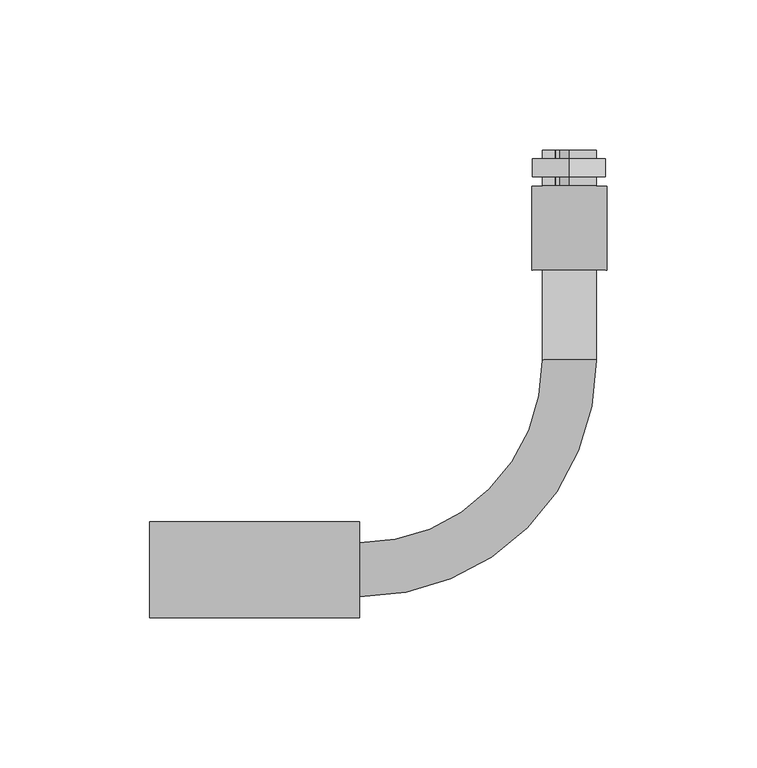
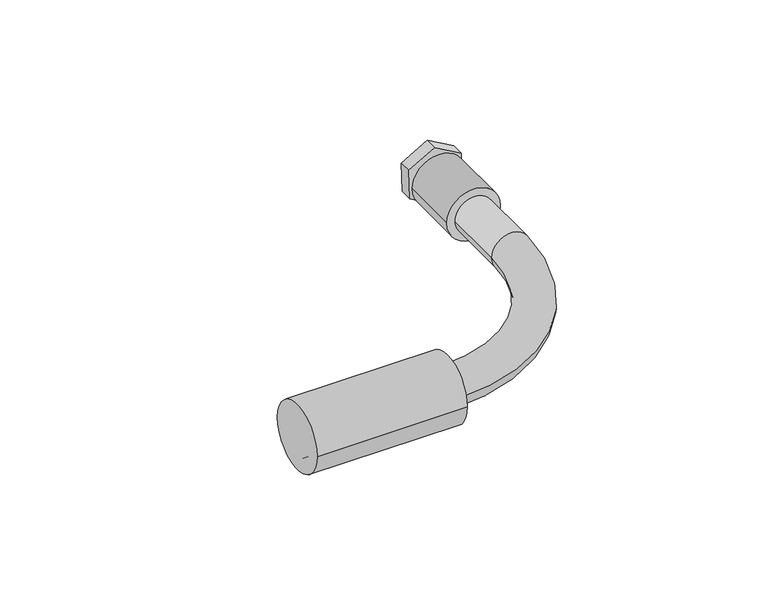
"""IFC4 building model written with IfcOpenShell, lengths in millimetres: cable carrier fitting geometry, Муфта_гибкая_труба-коробка_IP44 : Муфта гибкая труба-коробка D16мм."""

from ifc_helpers import new_model, si_unit, point, frame, frame_2d, origin, origin_2d, place, context, project, spatial, polyline, circle_curve, ellipse_curve, trimmed, segment, composite_curve, outline, extrude, source, transform, mapped, element, save
from ifc_brep_helpers import plane_surface, cylinder_surface, revolved_surface, advanced_brep


def cable_carrier_fitting_8629ba99(model_context):
    return source(origin(), model_context, "Body", "SolidModel", [
        extrude(outline(polyline([(-6.8809633, -12.0), (-14.0920659, 0.0), (-6.8809633, 12.0), (7.1190367, 12.0), (14.0110654, -0.1860552), (7.1141636, -12.369353), (-6.8809633, -12.0)])), frame((0.0, 131.1018563, 0.0), z_axis=(0.0, 1.0, 0.0), x_axis=(0.0, 0.0, 1.0)), (0.0, 0.0, 1.0), 6.0),
        extrude(outline(composite_curve([segment(trimmed(circle_curve(frame_2d((0.0032191, -0.0900025)), 8.5), [point((0.0032191, 8.4099975))], [point((0.0032191, -8.5900025))], False, "CARTESIAN"), True, "CONTINUOUS"), segment(trimmed(circle_curve(frame_2d((0.0032191, -0.0900025)), 8.5), [point((0.0032191, -8.5900025))], [point((0.0032191, 8.4099975))], False, "CARTESIAN"), True, "CONTINUOUS")], self_intersect=False)), frame((0.0, 128.0, 0.0), z_axis=(0.0, 1.0, 0.0), x_axis=(0.0, 0.0, 1.0)), (0.0, 0.0, 1.0), 12.0),
        advanced_brep(
        [(12.4094864, 128.0, 0.0), (-12.5905136, 128.0, 0.0), (-8.0905136, 128.0, 0.0057257), (7.9094864, 128.0, 0.0057257), (12.4094864, 100.0, 0.0), (-12.5905136, 100.0, 0.0), (7.9094864, 103.5421201, 0.0057257), (-8.0905136, 103.5421201, 0.0057257)],
        [
            (0, 1, circle_curve(frame((-0.0905136, 128.0, 0.0), z_axis=(0.0, 1.0, 0.0), x_axis=(-1.0, 0.0, 0.0)), 12.5)),
            (1, 0, circle_curve(frame((-0.0905136, 128.0, 0.0), z_axis=(0.0, 1.0, 0.0), x_axis=(-1.0, 0.0, 0.0)), 12.5)),
            (2, 3, circle_curve(frame((-0.0905136, 128.0, 0.0057257), z_axis=(0.0, -1.0, 0.0), x_axis=(-1.0, 0.0, 0.0)), 8.0)),
            (3, 2, circle_curve(frame((-0.0905136, 128.0, 0.0057257), z_axis=(0.0, -1.0, 0.0), x_axis=(-1.0, 0.0, 0.0)), 8.0)),
            (4, 5, circle_curve(frame((-0.0905136, 100.0, 0.0), z_axis=(0.0, -1.0, 0.0), x_axis=(-1.0, 0.0, 0.0)), 12.5)),
            (5, 4, circle_curve(frame((-0.0905136, 100.0, 0.0), z_axis=(0.0, -1.0, 0.0), x_axis=(-1.0, 0.0, 0.0)), 12.5)),
            (0, 4),
            (5, 1),
            (6, 7, circle_curve(frame((-0.0905136, 103.5421201, 0.0057257), z_axis=(0.0, 1.0, 0.0), x_axis=(-1.0, 0.0, 0.0)), 8.0)),
            (7, 6, circle_curve(frame((-0.0905136, 103.5421201, 0.0057257), z_axis=(0.0, 1.0, 0.0), x_axis=(-1.0, 0.0, 0.0)), 8.0)),
            (6, 3),
            (2, 7),
        ],
        [
            plane_surface(frame((-12.5905136, 128.0, 0.0), z_axis=(0.0, 1.0, 0.0), x_axis=(0.0, 0.0, 1.0))),
            plane_surface(frame((-12.5905136, 100.0, 0.0), z_axis=(0.0, -1.0, 0.0), x_axis=(0.0, 0.0, -1.0))),
            cylinder_surface(frame((-0.0905136, 100.0, 0.0), z_axis=(0.0, 1.0, 0.0), x_axis=(-1.0, 0.0, 0.0)), 12.5),
            plane_surface(frame((-8.0905136, 103.5421201, 0.0057257), z_axis=(0.0, 1.0, 0.0), x_axis=(0.0, 0.0, -1.0))),
            revolved_surface(polyline([(-8.0905136, 128.0, 0.0057257), (-8.0905136, 103.5421201, 0.0057257)]), (-0.0905136, 103.5421201, 0.0057257), (0.0, 1.0, 0.0)),
        ],
        [
            (0, [[1, 2], [3, 4]]),
            (1, [[5, 6]]),
            (2, [[-1, 7, -6, 8]]),
            (2, [[-2, -8, -5, -7]]),
            (3, [[9, 10]]),
            (4, [[-9, 11, -3, 12]]),
            (4, [[-10, -12, -4, -11]]),
        ],
    ),
        extrude(outline(composite_curve([segment(trimmed(circle_curve(origin_2d(), 16.0), [point((-16.0, 0.0))], [point((16.0, 0.0))], False, "CARTESIAN"), True, "CONTINUOUS"), segment(trimmed(circle_curve(origin_2d(), 16.0), [point((16.0, 0.0))], [point((-16.0, 0.0))], False, "CARTESIAN"), True, "CONTINUOUS")], self_intersect=False)), frame((-140.0, 0.0, 0.0), z_axis=(1.0, 0.0, 0.0), x_axis=(0.0, 1.0, 0.0)), (0.0, 0.0, 1.0), 70.0),
        advanced_brep(
        [(-140.0, -9.0, 0.0), (-140.0, 9.0, 0.0), (-70.0, -9.0, 0.0), (-70.0, 9.0, 0.0), (-9.0, 70.0, 0.0), (9.0, 70.0, 0.0), (9.0, 140.0, 0.0), (-9.0, 140.0, 0.0)],
        [
            (0, 1, circle_curve(frame((-140.0, 0.0, 0.0), z_axis=(-1.0, 0.0, 0.0), x_axis=(0.0, 1.0, 0.0)), 9.0)),
            (1, 0, circle_curve(frame((-140.0, 0.0, 0.0), z_axis=(-1.0, 0.0, 0.0), x_axis=(0.0, 1.0, 0.0)), 9.0)),
            (0, 2),
            (2, 3, circle_curve(frame((-70.0, 0.0, 0.0), z_axis=(-1.0, 0.0, 0.0), x_axis=(0.0, 1.0, 0.0)), 9.0)),
            (3, 1),
            (3, 2, circle_curve(frame((-70.0, 0.0, 0.0), z_axis=(-1.0, 0.0, 0.0), x_axis=(0.0, 1.0, 0.0)), 9.0)),
            (4, 3, circle_curve(frame((-70.0, 70.0, 0.0), z_axis=(0.0, 0.0, -1.0), x_axis=(0.0, -1.0, 0.0)), 61.0)),
            (2, 5, circle_curve(frame((-70.0, 70.0, 0.0), z_axis=(0.0, 0.0, 1.0), x_axis=(0.0, -1.0, 0.0)), 79.0)),
            (5, 4, circle_curve(frame((0.0, 70.0, 0.0), z_axis=(0.0, -1.0, 0.0), x_axis=(-1.0, 0.0, 0.0)), 9.0)),
            (4, 5, circle_curve(frame((0.0, 70.0, 0.0), z_axis=(0.0, -1.0, 0.0), x_axis=(-1.0, 0.0, 0.0)), 9.0)),
            (6, 7, circle_curve(frame((0.0, 140.0, 0.0), z_axis=(0.0, 1.0, 0.0), x_axis=(-1.0, 0.0, 0.0)), 9.0)),
            (7, 6, circle_curve(frame((0.0, 140.0, 0.0), z_axis=(0.0, 1.0, 0.0), x_axis=(-1.0, 0.0, 0.0)), 9.0)),
            (5, 6),
            (7, 4),
        ],
        [
            plane_surface(frame((-140.0, 0.0, 0.0), z_axis=(-1.0, 0.0, 0.0), x_axis=(0.0, 0.0, 1.0))),
            cylinder_surface(frame((-140.0, 0.0, 0.0), z_axis=(-1.0, 0.0, 0.0), x_axis=(0.0, 1.0, 0.0)), 9.0),
            revolved_surface(trimmed(ellipse_curve(frame((-70.0, 0.0, 0.0), z_axis=(-1.0, 0.0, 0.0), x_axis=(0.0, 1.0, 0.0)), 9.0, 9.0), [point((-70.0, -9.0, 0.0))], [point((-70.0, 9.0, 0.0))], True, "CARTESIAN"), (-70.0, 70.0, 0.0), (0.0, 0.0, 1.0)),
            revolved_surface(trimmed(ellipse_curve(frame((-70.0, 0.0, 0.0), z_axis=(-1.0, 0.0, 0.0), x_axis=(0.0, 1.0, 0.0)), 9.0, 9.0), [point((-70.0, 9.0, 0.0))], [point((-70.0, -9.0, 0.0))], True, "CARTESIAN"), (-70.0, 70.0, 0.0), (0.0, 0.0, 1.0)),
            plane_surface(frame((0.0, 140.0, 0.0), z_axis=(0.0, 1.0, 0.0), x_axis=(0.0, 0.0, 1.0))),
            cylinder_surface(frame((0.0, 70.0, 0.0), z_axis=(0.0, -1.0, 0.0), x_axis=(-1.0, 0.0, 0.0)), 9.0),
        ],
        [
            (0, [[1, 2]]),
            (1, [[-1, 3, 4, 5]]),
            (1, [[-2, -5, 6, -3]]),
            (2, [[7, -4, 8, 9]]),
            (3, [[-8, -6, -7, 10]]),
            (4, [[11, 12]]),
            (5, [[-9, 13, -12, 14]]),
            (5, [[-10, -14, -11, -13]]),
        ],
    ),
    ])


if __name__ == "__main__":
    model = new_model("IFC4")
    model_context = context("Model", 3, world=origin())
    ifc_project = project(units=[si_unit("LENGTHUNIT", "METRE", prefix="MILLI")], contexts=[model_context])
    site = spatial("IfcSite", under=ifc_project)
    building = spatial("IfcBuilding", under=site)
    placement = place(None, origin())
    cable_carrier_fitting_shape = cable_carrier_fitting_8629ba99(model_context)
    element("IfcCableCarrierFitting", 1, ObjectType="Муфта_гибкая_труба-коробка_IP44 : Муфта гибкая труба-коробка D16мм", at=placement, inside=building, context=model_context, shape_type="MappedRepresentation", body=[
        mapped(cable_carrier_fitting_shape, transform((0.0, 0.0, 0.0), x_axis=(1.0, 0.0, 0.0), y_axis=(0.0, 1.0, 0.0), z_axis=(0.0, 0.0, 1.0))),
    ])
    save(model, "model.ifc")
